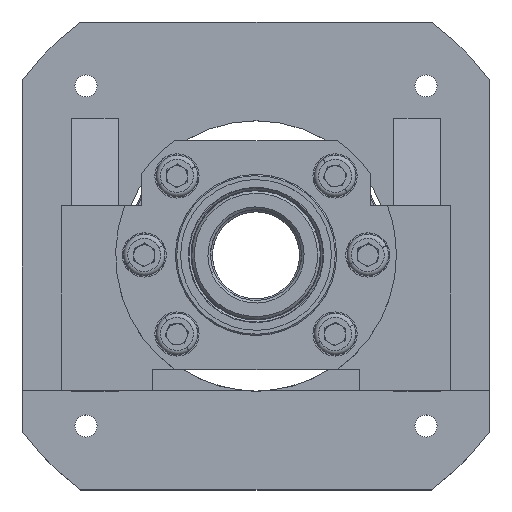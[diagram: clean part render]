
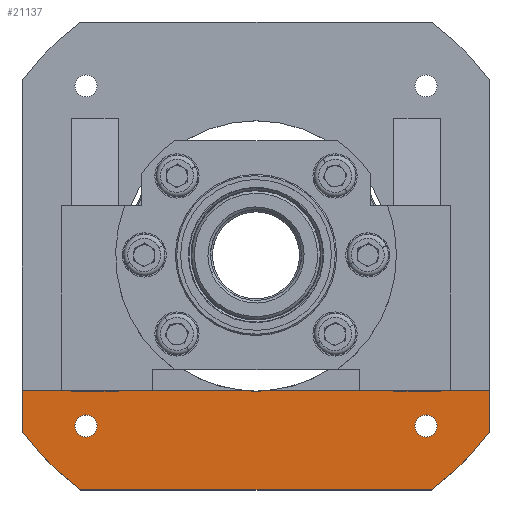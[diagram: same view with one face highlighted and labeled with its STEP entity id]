
A CAD part, top view. The second image highlights one B-rep face of the part: STEP entity #21137.
In plain terms, the highlighted planar face has unit normal (0, 0, 1).
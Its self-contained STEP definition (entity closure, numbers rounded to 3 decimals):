
#125 = LINE ( 'NONE', #1789, #26334 ) ;
#133 = CIRCLE ( 'NONE', #25440, 112.5 ) ;
#501 = VECTOR ( 'NONE', #27678, 1000. ) ;
#773 = CARTESIAN_POINT ( 'NONE',  ( 0., 0., 21. ) ) ;
#1093 = CARTESIAN_POINT ( 'NONE',  ( -61.157, -65.407, 21. ) ) ;
#1789 = CARTESIAN_POINT ( 'NONE',  ( 90., 90., 21. ) ) ;
#1874 = EDGE_CURVE ( 'NONE', #30023, #24937, #20501, .T. ) ;
#1881 = CARTESIAN_POINT ( 'NONE',  ( -65.407, -65.407, 21. ) ) ;
#1978 = AXIS2_PLACEMENT_3D ( 'NONE', #773, #16958, #3198 ) ;
#2096 = VECTOR ( 'NONE', #4570, 1000. ) ;
#2193 = ORIENTED_EDGE ( 'NONE', *, *, #5492, .F. ) ;
#2334 = AXIS2_PLACEMENT_3D ( 'NONE', #27822, #13779, #30228 ) ;
#2851 = CARTESIAN_POINT ( 'NONE',  ( 90., -67.5, 21. ) ) ;
#2876 = EDGE_LOOP ( 'NONE', ( #6303, #28365 ) ) ;
#2926 = ORIENTED_EDGE ( 'NONE', *, *, #10835, .F. ) ;
#3198 = DIRECTION ( 'NONE',  ( 1., 0., 0. ) ) ;
#3458 = CARTESIAN_POINT ( 'NONE',  ( 69.657, -65.407, 21. ) ) ;
#3704 = DIRECTION ( 'NONE',  ( 0., 0., 1. ) ) ;
#4200 = DIRECTION ( 'NONE',  ( 0., 1., 0. ) ) ;
#4297 = DIRECTION ( 'NONE',  ( 1., 0., 0. ) ) ;
#4570 = DIRECTION ( 'NONE',  ( 0., -1., 0. ) ) ;
#4821 = CARTESIAN_POINT ( 'NONE',  ( -90., 90., 21. ) ) ;
#5082 = EDGE_CURVE ( 'NONE', #24937, #14886, #133, .T. ) ;
#5332 = PLANE ( 'NONE',  #20069 ) ;
#5492 = EDGE_CURVE ( 'NONE', #30023, #21569, #7521, .T. ) ;
#6004 = CIRCLE ( 'NONE', #24944, 112.5 ) ;
#6164 = VERTEX_POINT ( 'NONE', #1093 ) ;
#6303 = ORIENTED_EDGE ( 'NONE', *, *, #23305, .F. ) ;
#6659 = CARTESIAN_POINT ( 'NONE',  ( 0., 0., 21. ) ) ;
#7069 = CARTESIAN_POINT ( 'NONE',  ( -5.578, -51.7, 21. ) ) ;
#7521 = LINE ( 'NONE', #22902, #501 ) ;
#7538 = DIRECTION ( 'NONE',  ( 1., 0., 0. ) ) ;
#7643 = DIRECTION ( 'NONE',  ( 0., 0., 1. ) ) ;
#7645 = DIRECTION ( 'NONE',  ( 1., 0., 0. ) ) ;
#7727 = CARTESIAN_POINT ( 'NONE',  ( 0., 0., 21. ) ) ;
#7974 = DIRECTION ( 'NONE',  ( 1., 0., 0. ) ) ;
#8607 = VERTEX_POINT ( 'NONE', #15471 ) ;
#8924 = DIRECTION ( 'NONE',  ( 1., 0., 0. ) ) ;
#9408 = DIRECTION ( 'NONE',  ( 0., 0., 1. ) ) ;
#9810 = ORIENTED_EDGE ( 'NONE', *, *, #17337, .T. ) ;
#10737 = EDGE_LOOP ( 'NONE', ( #12933, #17648, #23149, #9810, #27648, #27315, #14440, #2193 ) ) ;
#10835 = EDGE_CURVE ( 'NONE', #24573, #6164, #29404, .T. ) ;
#10902 = CIRCLE ( 'NONE', #14050, 4.25 ) ;
#11216 = FACE_OUTER_BOUND ( 'NONE', #10737, .T. ) ;
#12213 = CIRCLE ( 'NONE', #17196, 4.25 ) ;
#12240 = EDGE_CURVE ( 'NONE', #8607, #21569, #15029, .T. ) ;
#12933 = ORIENTED_EDGE ( 'NONE', *, *, #1874, .T. ) ;
#13473 = VECTOR ( 'NONE', #7974, 1000. ) ;
#13489 = DIRECTION ( 'NONE',  ( 1., 0., 0. ) ) ;
#13779 = DIRECTION ( 'NONE',  ( 0., 0., 1. ) ) ;
#13800 = VERTEX_POINT ( 'NONE', #29510 ) ;
#14050 = AXIS2_PLACEMENT_3D ( 'NONE', #17432, #3704, #19743 ) ;
#14440 = ORIENTED_EDGE ( 'NONE', *, *, #12240, .T. ) ;
#14727 = CARTESIAN_POINT ( 'NONE',  ( -90., -90., 21. ) ) ;
#14886 = VERTEX_POINT ( 'NONE', #26670 ) ;
#15029 = CIRCLE ( 'NONE', #1978, 52. ) ;
#15281 = VECTOR ( 'NONE', #13489, 1000. ) ;
#15471 = CARTESIAN_POINT ( 'NONE',  ( 5.578, -51.7, 21. ) ) ;
#15783 = EDGE_CURVE ( 'NONE', #14886, #21454, #25919, .T. ) ;
#15841 = CARTESIAN_POINT ( 'NONE',  ( -104.626, -51.7, 21. ) ) ;
#16376 = EDGE_CURVE ( 'NONE', #8607, #13800, #21473, .T. ) ;
#16950 = CARTESIAN_POINT ( 'NONE',  ( -69.657, -65.407, 21. ) ) ;
#16958 = DIRECTION ( 'NONE',  ( 0., 0., -1. ) ) ;
#17196 = AXIS2_PLACEMENT_3D ( 'NONE', #23266, #9408, #25620 ) ;
#17337 = EDGE_CURVE ( 'NONE', #21454, #21042, #6004, .T. ) ;
#17432 = CARTESIAN_POINT ( 'NONE',  ( 65.407, -65.407, 21. ) ) ;
#17648 = ORIENTED_EDGE ( 'NONE', *, *, #5082, .T. ) ;
#18013 = DIRECTION ( 'NONE',  ( 0., 0., 1. ) ) ;
#18331 = EDGE_LOOP ( 'NONE', ( #2926, #26855 ) ) ;
#18366 = CARTESIAN_POINT ( 'NONE',  ( 67.5, -90., 21. ) ) ;
#19045 = CARTESIAN_POINT ( 'NONE',  ( 61.157, -65.407, 21. ) ) ;
#19453 = EDGE_CURVE ( 'NONE', #20502, #22700, #10902, .T. ) ;
#19743 = DIRECTION ( 'NONE',  ( 1., 0., 0. ) ) ;
#20069 = AXIS2_PLACEMENT_3D ( 'NONE', #23698, #21400, #7645 ) ;
#20501 = LINE ( 'NONE', #4821, #2096 ) ;
#20502 = VERTEX_POINT ( 'NONE', #3458 ) ;
#21042 = VERTEX_POINT ( 'NONE', #2851 ) ;
#21137 = ADVANCED_FACE ( 'NONE', ( #29904, #29148, #11216 ), #5332, .T. ) ;
#21400 = DIRECTION ( 'NONE',  ( 0., 0., 1. ) ) ;
#21454 = VERTEX_POINT ( 'NONE', #18366 ) ;
#21473 = LINE ( 'NONE', #15841, #15281 ) ;
#21569 = VERTEX_POINT ( 'NONE', #7069 ) ;
#22222 = CARTESIAN_POINT ( 'NONE',  ( -90., -67.5, 21. ) ) ;
#22700 = VERTEX_POINT ( 'NONE', #19045 ) ;
#22755 = DIRECTION ( 'NONE',  ( 0., 0., 1. ) ) ;
#22902 = CARTESIAN_POINT ( 'NONE',  ( -104.626, -51.7, 21. ) ) ;
#23149 = ORIENTED_EDGE ( 'NONE', *, *, #15783, .T. ) ;
#23266 = CARTESIAN_POINT ( 'NONE',  ( -65.407, -65.407, 21. ) ) ;
#23305 = EDGE_CURVE ( 'NONE', #22700, #20502, #27994, .T. ) ;
#23698 = CARTESIAN_POINT ( 'NONE',  ( -104.626, -112., 21. ) ) ;
#24202 = EDGE_CURVE ( 'NONE', #6164, #24573, #12213, .T. ) ;
#24573 = VERTEX_POINT ( 'NONE', #16950 ) ;
#24895 = AXIS2_PLACEMENT_3D ( 'NONE', #1881, #18013, #4297 ) ;
#24937 = VERTEX_POINT ( 'NONE', #22222 ) ;
#24944 = AXIS2_PLACEMENT_3D ( 'NONE', #6659, #22755, #8924 ) ;
#25440 = AXIS2_PLACEMENT_3D ( 'NONE', #7727, #7643, #7538 ) ;
#25620 = DIRECTION ( 'NONE',  ( 1., 0., 0. ) ) ;
#25919 = LINE ( 'NONE', #14727, #13473 ) ;
#26334 = VECTOR ( 'NONE', #4200, 1000. ) ;
#26670 = CARTESIAN_POINT ( 'NONE',  ( -67.5, -90., 21. ) ) ;
#26855 = ORIENTED_EDGE ( 'NONE', *, *, #24202, .F. ) ;
#27315 = ORIENTED_EDGE ( 'NONE', *, *, #16376, .F. ) ;
#27401 = CARTESIAN_POINT ( 'NONE',  ( -90., -51.7, 21. ) ) ;
#27648 = ORIENTED_EDGE ( 'NONE', *, *, #29978, .T. ) ;
#27678 = DIRECTION ( 'NONE',  ( 1., 0., 0. ) ) ;
#27822 = CARTESIAN_POINT ( 'NONE',  ( 65.407, -65.407, 21. ) ) ;
#27994 = CIRCLE ( 'NONE', #2334, 4.25 ) ;
#28365 = ORIENTED_EDGE ( 'NONE', *, *, #19453, .F. ) ;
#29148 = FACE_BOUND ( 'NONE', #18331, .T. ) ;
#29404 = CIRCLE ( 'NONE', #24895, 4.25 ) ;
#29510 = CARTESIAN_POINT ( 'NONE',  ( 90., -51.7, 21. ) ) ;
#29904 = FACE_BOUND ( 'NONE', #2876, .T. ) ;
#29978 = EDGE_CURVE ( 'NONE', #21042, #13800, #125, .T. ) ;
#30023 = VERTEX_POINT ( 'NONE', #27401 ) ;
#30228 = DIRECTION ( 'NONE',  ( 1., 0., 0. ) ) ;
